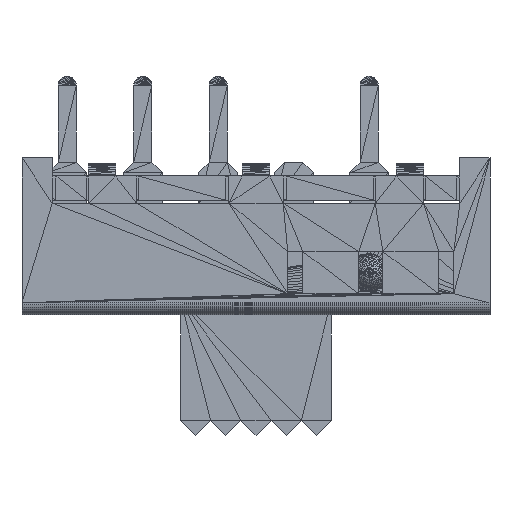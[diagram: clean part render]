
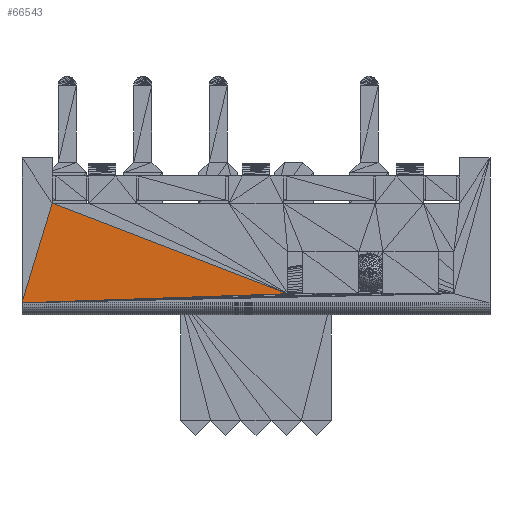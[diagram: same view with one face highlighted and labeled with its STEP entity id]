
A CAD part, front view. The second image highlights one B-rep face of the part: STEP entity #66543.
In plain terms, the highlighted planar face has unit normal (0, -1, 0).
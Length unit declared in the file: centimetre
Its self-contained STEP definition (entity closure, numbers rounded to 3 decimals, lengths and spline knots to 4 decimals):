
#230=DIRECTION('',(0.999,0.,0.034));
#244=DIRECTION('',(0.933,0.,-0.359));
#349=DIRECTION('',(0.29,0.,0.957));
#4399=VECTOR('',#230,1.);
#4413=VECTOR('',#244,1.);
#4518=VECTOR('',#349,1.);
#9508=CARTESIAN_POINT('',(-0.775,-0.3,-0.165));
#9520=CARTESIAN_POINT('',(-0.675,-0.3,0.165));
#9530=CARTESIAN_POINT('',(0.105,-0.3,-0.135));
#12260=VERTEX_POINT('',#9508);
#12272=VERTEX_POINT('',#9520);
#12282=VERTEX_POINT('',#9530);
#16340=LINE('',#9508,#4399);
#16477=LINE('',#9520,#4413);
#16478=LINE('',#9508,#4518);
#23604=EDGE_CURVE('',#12260,#12282,#16340,.T.);
#23741=EDGE_CURVE('',#12272,#12282,#16477,.T.);
#23742=EDGE_CURVE('',#12260,#12272,#16478,.T.);
#30868=ORIENTED_EDGE('',*,*,#23604,.T.);
#38269=ORIENTED_EDGE('',*,*,#23741,.F.);
#38270=ORIENTED_EDGE('',*,*,#23742,.F.);
#44483=EDGE_LOOP('',(#38269,#38270,#30868));
#48895=FACE_OUTER_BOUND('',#44483,.T.);
#54729=DIRECTION('',(0.,-1.,0.));
#54730=AXIS2_PLACEMENT_3D('',#9530,#54729,#244);
#62131=PLANE('',#54730);
#66543=ADVANCED_FACE('',(#48895),#62131,.T.);
